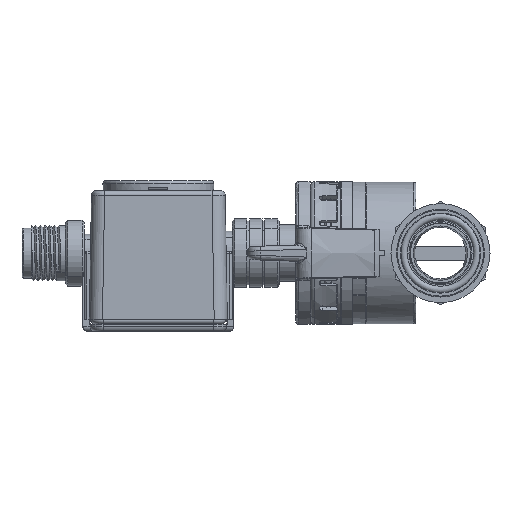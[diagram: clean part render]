
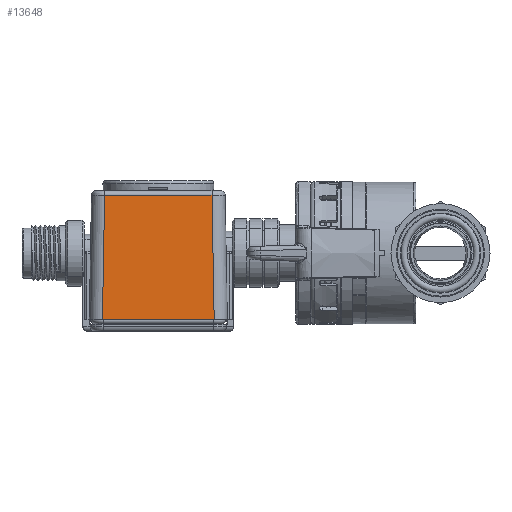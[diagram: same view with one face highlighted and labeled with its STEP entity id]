
A CAD part, left-side view. The second image highlights one B-rep face of the part: STEP entity #13648.
In plain terms, the highlighted planar face has unit normal (-1, 0, 0.018).
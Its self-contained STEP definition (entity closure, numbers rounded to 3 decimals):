
#1391=LINE('',#54554,#3200);
#1480=LINE('',#54874,#3289);
#1486=LINE('',#54885,#3295);
#1569=LINE('',#55117,#3378);
#3200=VECTOR('',#40480,1.);
#3289=VECTOR('',#40713,1.);
#3295=VECTOR('',#40725,1.);
#3378=VECTOR('',#40934,1.);
#13648=ADVANCED_FACE('',(#15772),#14803,.F.);
#14803=PLANE('',#36128);
#15772=FACE_OUTER_BOUND('',#17349,.T.);
#17349=EDGE_LOOP('',(#21985,#21986,#21987,#21988));
#21985=ORIENTED_EDGE('',*,*,#30684,.T.);
#21986=ORIENTED_EDGE('',*,*,#30450,.F.);
#21987=ORIENTED_EDGE('',*,*,#30581,.F.);
#21988=ORIENTED_EDGE('',*,*,#30575,.T.);
#27374=VERTEX_POINT('',#54553);
#27375=VERTEX_POINT('',#54555);
#27443=VERTEX_POINT('',#54847);
#27445=VERTEX_POINT('',#54873);
#30450=EDGE_CURVE('',#27374,#27375,#1391,.T.);
#30575=EDGE_CURVE('',#27443,#27445,#1480,.T.);
#30581=EDGE_CURVE('',#27443,#27374,#1486,.T.);
#30684=EDGE_CURVE('',#27445,#27375,#1569,.T.);
#36128=AXIS2_PLACEMENT_3D('',#55118,#40935,#40936);
#40480=DIRECTION('',(0.,1.,0.));
#40713=DIRECTION('',(0.,1.,0.));
#40725=DIRECTION('',(-0.017,-0.017,-1.));
#40934=DIRECTION('',(-0.017,0.017,-1.));
#40935=DIRECTION('',(1.,0.,-0.017));
#40936=DIRECTION('',(0.017,0.,1.));
#54553=CARTESIAN_POINT('',(-66.173,29.905,-14.045));
#54554=CARTESIAN_POINT('',(-66.173,49.065,-14.045));
#54555=CARTESIAN_POINT('',(-66.173,53.555,-14.045));
#54847=CARTESIAN_POINT('',(-65.714,30.364,12.249));
#54873=CARTESIAN_POINT('',(-65.714,53.096,12.249));
#54874=CARTESIAN_POINT('',(-65.714,49.065,12.249));
#54885=CARTESIAN_POINT('',(-66.269,29.809,-19.543));
#55117=CARTESIAN_POINT('',(-66.269,53.651,-19.543));
#55118=CARTESIAN_POINT('',(-66.271,49.065,-19.623));
